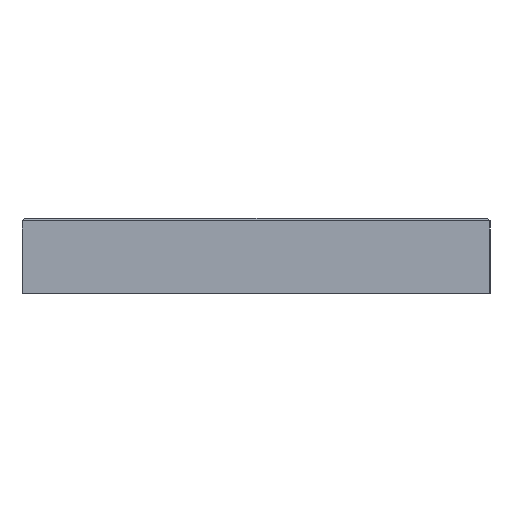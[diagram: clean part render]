
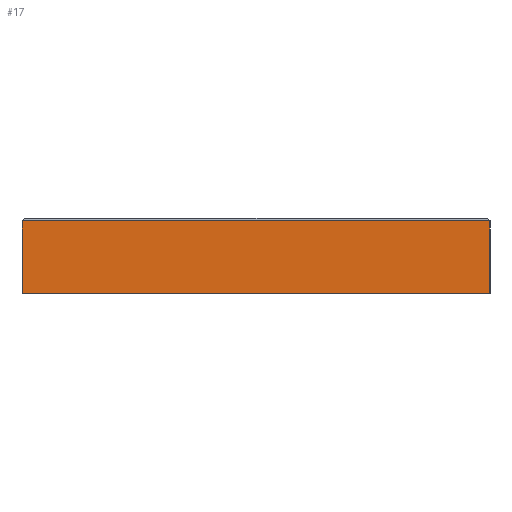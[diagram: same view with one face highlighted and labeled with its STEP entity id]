
A CAD part, left-side view. The second image highlights one B-rep face of the part: STEP entity #17.
In plain terms, the highlighted planar face has unit normal (-1, 0, 0).
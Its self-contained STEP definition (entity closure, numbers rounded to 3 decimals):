
#17 = ADVANCED_FACE('',(#18),#32,.F.);
#18 = FACE_BOUND('',#19,.F.);
#19 = EDGE_LOOP('',(#20,#55,#83,#111));
#20 = ORIENTED_EDGE('',*,*,#21,.F.);
#21 = EDGE_CURVE('',#22,#24,#26,.T.);
#22 = VERTEX_POINT('',#23);
#23 = CARTESIAN_POINT('',(-32.,-17.,0.));
#24 = VERTEX_POINT('',#25);
#25 = CARTESIAN_POINT('',(-32.,-17.,5.3));
#26 = SURFACE_CURVE('',#27,(#31,#43),.PCURVE_S1.);
#27 = LINE('',#28,#29);
#28 = CARTESIAN_POINT('',(-32.,-17.,0.));
#29 = VECTOR('',#30,1.);
#30 = DIRECTION('',(0.,0.,1.));
#31 = PCURVE('',#32,#37);
#32 = PLANE('',#33);
#33 = AXIS2_PLACEMENT_3D('',#34,#35,#36);
#34 = CARTESIAN_POINT('',(-32.,-17.,0.));
#35 = DIRECTION('',(1.,0.,0.));
#36 = DIRECTION('',(0.,0.,1.));
#37 = DEFINITIONAL_REPRESENTATION('',(#38),#42);
#38 = LINE('',#39,#40);
#39 = CARTESIAN_POINT('',(0.,0.));
#40 = VECTOR('',#41,1.);
#41 = DIRECTION('',(1.,0.));
#42 = ( GEOMETRIC_REPRESENTATION_CONTEXT(2) 
PARAMETRIC_REPRESENTATION_CONTEXT() REPRESENTATION_CONTEXT('2D SPACE',''
  ) );
#43 = PCURVE('',#44,#49);
#44 = PLANE('',#45);
#45 = AXIS2_PLACEMENT_3D('',#46,#47,#48);
#46 = CARTESIAN_POINT('',(-32.,-17.,0.));
#47 = DIRECTION('',(0.,1.,0.));
#48 = DIRECTION('',(0.,0.,1.));
#49 = DEFINITIONAL_REPRESENTATION('',(#50),#54);
#50 = LINE('',#51,#52);
#51 = CARTESIAN_POINT('',(0.,0.));
#52 = VECTOR('',#53,1.);
#53 = DIRECTION('',(1.,0.));
#54 = ( GEOMETRIC_REPRESENTATION_CONTEXT(2) 
PARAMETRIC_REPRESENTATION_CONTEXT() REPRESENTATION_CONTEXT('2D SPACE',''
  ) );
#55 = ORIENTED_EDGE('',*,*,#56,.T.);
#56 = EDGE_CURVE('',#22,#57,#59,.T.);
#57 = VERTEX_POINT('',#58);
#58 = CARTESIAN_POINT('',(-32.,17.,0.));
#59 = SURFACE_CURVE('',#60,(#64,#71),.PCURVE_S1.);
#60 = LINE('',#61,#62);
#61 = CARTESIAN_POINT('',(-32.,-17.,0.));
#62 = VECTOR('',#63,1.);
#63 = DIRECTION('',(0.,1.,0.));
#64 = PCURVE('',#32,#65);
#65 = DEFINITIONAL_REPRESENTATION('',(#66),#70);
#66 = LINE('',#67,#68);
#67 = CARTESIAN_POINT('',(0.,0.));
#68 = VECTOR('',#69,1.);
#69 = DIRECTION('',(0.,-1.));
#70 = ( GEOMETRIC_REPRESENTATION_CONTEXT(2) 
PARAMETRIC_REPRESENTATION_CONTEXT() REPRESENTATION_CONTEXT('2D SPACE',''
  ) );
#71 = PCURVE('',#72,#77);
#72 = PLANE('',#73);
#73 = AXIS2_PLACEMENT_3D('',#74,#75,#76);
#74 = CARTESIAN_POINT('',(-32.,-17.,0.));
#75 = DIRECTION('',(0.,0.,1.));
#76 = DIRECTION('',(1.,0.,0.));
#77 = DEFINITIONAL_REPRESENTATION('',(#78),#82);
#78 = LINE('',#79,#80);
#79 = CARTESIAN_POINT('',(0.,0.));
#80 = VECTOR('',#81,1.);
#81 = DIRECTION('',(0.,1.));
#82 = ( GEOMETRIC_REPRESENTATION_CONTEXT(2) 
PARAMETRIC_REPRESENTATION_CONTEXT() REPRESENTATION_CONTEXT('2D SPACE',''
  ) );
#83 = ORIENTED_EDGE('',*,*,#84,.T.);
#84 = EDGE_CURVE('',#57,#85,#87,.T.);
#85 = VERTEX_POINT('',#86);
#86 = CARTESIAN_POINT('',(-32.,17.,5.3));
#87 = SURFACE_CURVE('',#88,(#92,#99),.PCURVE_S1.);
#88 = LINE('',#89,#90);
#89 = CARTESIAN_POINT('',(-32.,17.,0.));
#90 = VECTOR('',#91,1.);
#91 = DIRECTION('',(0.,0.,1.));
#92 = PCURVE('',#32,#93);
#93 = DEFINITIONAL_REPRESENTATION('',(#94),#98);
#94 = LINE('',#95,#96);
#95 = CARTESIAN_POINT('',(0.,-34.));
#96 = VECTOR('',#97,1.);
#97 = DIRECTION('',(1.,0.));
#98 = ( GEOMETRIC_REPRESENTATION_CONTEXT(2) 
PARAMETRIC_REPRESENTATION_CONTEXT() REPRESENTATION_CONTEXT('2D SPACE',''
  ) );
#99 = PCURVE('',#100,#105);
#100 = PLANE('',#101);
#101 = AXIS2_PLACEMENT_3D('',#102,#103,#104);
#102 = CARTESIAN_POINT('',(-32.,17.,0.));
#103 = DIRECTION('',(0.,1.,0.));
#104 = DIRECTION('',(0.,0.,1.));
#105 = DEFINITIONAL_REPRESENTATION('',(#106),#110);
#106 = LINE('',#107,#108);
#107 = CARTESIAN_POINT('',(0.,0.));
#108 = VECTOR('',#109,1.);
#109 = DIRECTION('',(1.,0.));
#110 = ( GEOMETRIC_REPRESENTATION_CONTEXT(2) 
PARAMETRIC_REPRESENTATION_CONTEXT() REPRESENTATION_CONTEXT('2D SPACE',''
  ) );
#111 = ORIENTED_EDGE('',*,*,#112,.F.);
#112 = EDGE_CURVE('',#24,#85,#113,.T.);
#113 = SURFACE_CURVE('',#114,(#118,#125),.PCURVE_S1.);
#114 = LINE('',#115,#116);
#115 = CARTESIAN_POINT('',(-32.,-17.,5.3));
#116 = VECTOR('',#117,1.);
#117 = DIRECTION('',(0.,1.,0.));
#118 = PCURVE('',#32,#119);
#119 = DEFINITIONAL_REPRESENTATION('',(#120),#124);
#120 = LINE('',#121,#122);
#121 = CARTESIAN_POINT('',(5.3,0.));
#122 = VECTOR('',#123,1.);
#123 = DIRECTION('',(0.,-1.));
#124 = ( GEOMETRIC_REPRESENTATION_CONTEXT(2) 
PARAMETRIC_REPRESENTATION_CONTEXT() REPRESENTATION_CONTEXT('2D SPACE',''
  ) );
#125 = PCURVE('',#126,#131);
#126 = PLANE('',#127);
#127 = AXIS2_PLACEMENT_3D('',#128,#129,#130);
#128 = CARTESIAN_POINT('',(-31.9,-17.,5.4));
#129 = DIRECTION('',(0.707,0.,-0.707));
#130 = DIRECTION('',(0.,1.,0.));
#131 = DEFINITIONAL_REPRESENTATION('',(#132),#136);
#132 = LINE('',#133,#134);
#133 = CARTESIAN_POINT('',(0.,-0.141));
#134 = VECTOR('',#135,1.);
#135 = DIRECTION('',(1.,0.));
#136 = ( GEOMETRIC_REPRESENTATION_CONTEXT(2) 
PARAMETRIC_REPRESENTATION_CONTEXT() REPRESENTATION_CONTEXT('2D SPACE',''
  ) );
